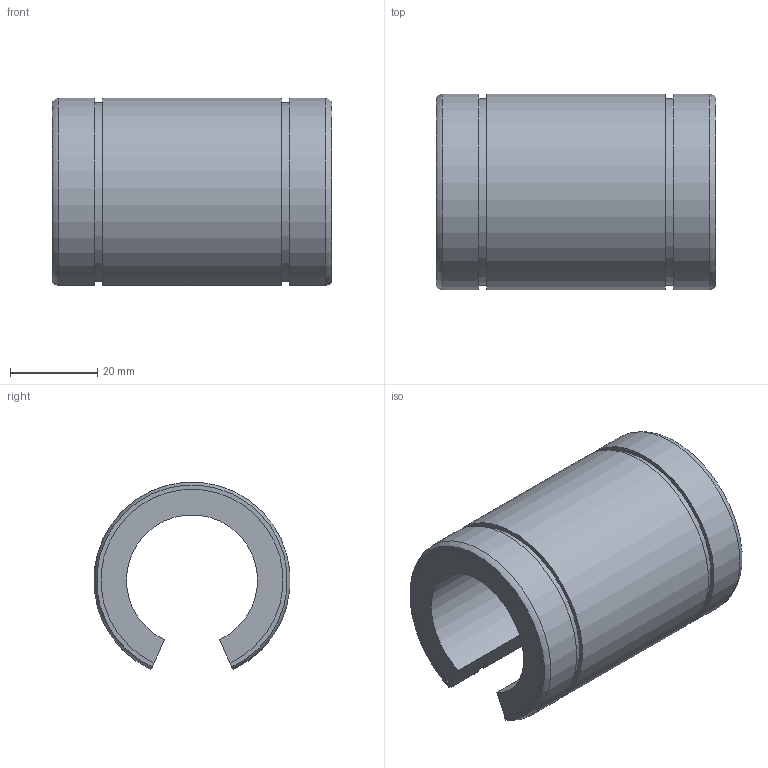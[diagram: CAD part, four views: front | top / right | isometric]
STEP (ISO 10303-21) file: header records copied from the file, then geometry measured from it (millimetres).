
FILE_DESCRIPTION((''),'2;1');
FILE_NAME('D:\製品 (図面)\カタログ用3D\リニアベアリング関連\STEP形式\L-OP\L30-OP.stp','2010-06-04T09:34:23',('Tsuchiya'),(''),'Autodesk Inventor 10','Autodesk Inventor 10','');
FILE_SCHEMA(('AUTOMOTIVE_DESIGN { 1 0 10303 214 1 1 1 1 }'));
Length unit declared in the file: millimetre
Products named in the file (1): L30-OP
Bounding box: 64 x 44.84 x 42.85 mm (x, y, z)
Volume: 48138.4 mm3; surface area: 15819.9 mm2
Topology: 1 solids, 1 shells, 20 faces, 54 edges, 36 vertices
Faces by surface type: plane 10, cylinder 8, torus 2
Entity records: 693 total; most frequent: CARTESIAN_POINT 153, DIRECTION 110, ORIENTED_EDGE 108, EDGE_CURVE 54, AXIS2_PLACEMENT_3D 39, VERTEX_POINT 36, VECTOR 32, LINE 32
